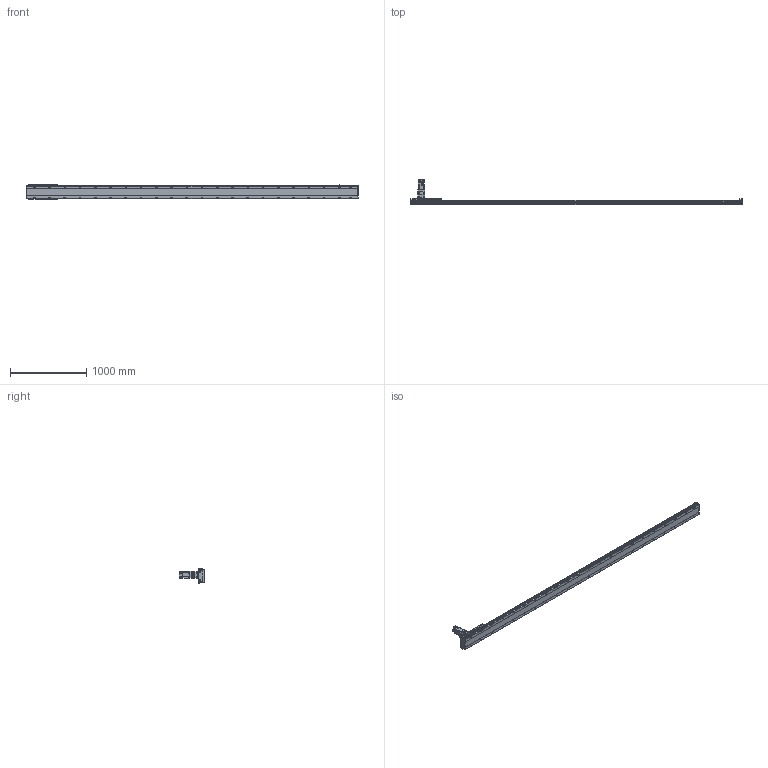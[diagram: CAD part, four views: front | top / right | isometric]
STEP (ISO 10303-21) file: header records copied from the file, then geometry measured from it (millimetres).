
FILE_DESCRIPTION(/* description */ ('STEP AP203'),/* implementation_level */ '2;1');
FILE_NAME(/* name */ 'SHS17A-L13-S3900-BC-T75-C1-N(0)',/* time_stamp */ '2023-03-27T08:58:52+02:00',/* author */ ('License CC BY-ND 4.0'),/* organization */ ('CADENAS'),/* preprocessor_version */ 'ST-DEVELOPER v19.3',/* originating_system */ 'PARTsolutions',/* authorisation */ ' ');
FILE_SCHEMA (('CONFIG_CONTROL_DESIGN'));
Length unit declared in the file: millimetre
Products named in the file (7): SHS17A-L13-S3900-BC-T75-C1-N(0); PSC140-sensor; SHS17A-S3900(0)_body2; T75-p1; SHS17A-S3900_body3; SHS17A-S3900-C1(0)_slider; SHS17A-S3900-C1(0)_body
Assembly tree (13 placements, depth 2):
  SHS17A-L13-S3900-BC-T75-C1-N(0)
    PSC140-sensor  x3
    SHS17A-S3900(0)_body2  x6
    T75-p1
    SHS17A-S3900_body3
    SHS17A-S3900-C1(0)_slider
    SHS17A-S3900-C1(0)_body
Bounding box: 4354 x 333.8 x 193.4 mm (x, y, z)
Volume: 29755122.8 mm3; surface area: 3411392 mm2
Topology: 13 solids, 13 shells, 2360 faces, 6021 edges, 3920 vertices
Faces by surface type: plane 1455, cylinder 804, cone 98, torus 3
Full cylindrical faces by diameter (mm): 2.8 x3, 4.134 x24, 4.5 x2, 4.6 x3, 4.917 x15, 5.5 x48, 6 x7, 6.5 x24, 6.647 x52, 6.8 x9, 8 x3, 8.5 x44, 10 x28, 11 x4, 14 x44, 22 x1, 24 x1, 24.2 x1, 28 x1, 28.2 x1, 28.8 x1, 29.8 x1, 48.542 x1, 68 x1, 70 x1, 78 x1, 80 x2
Entity records: 47696 total; most frequent: CARTESIAN_POINT 9548, DIRECTION 7723, ORIENTED_EDGE 7484, EDGE_CURVE 3742, AXIS2_PLACEMENT_3D 2758, VERTEX_POINT 2635, EDGE_LOOP 2239, FACE_BOUND 2239
